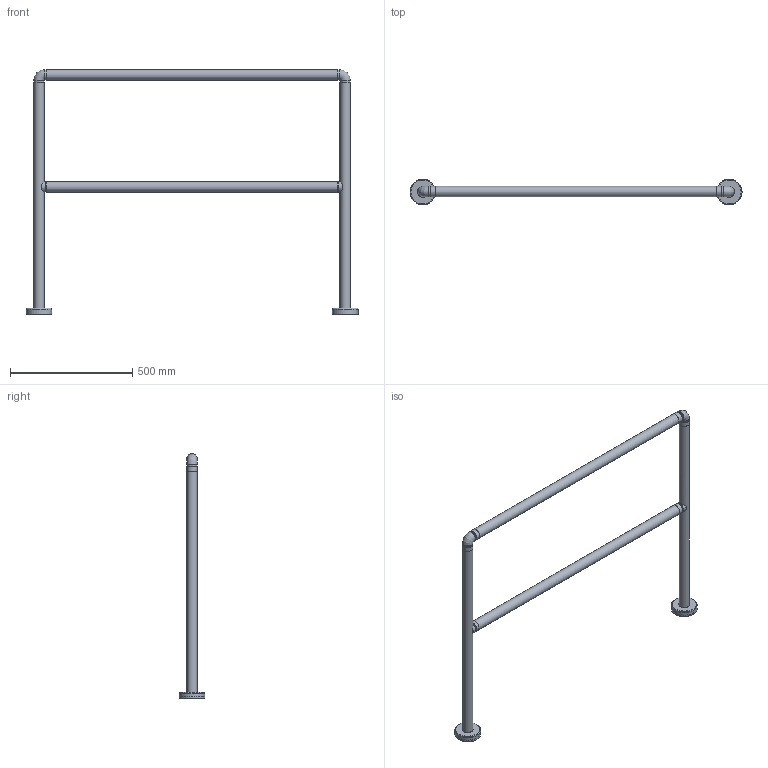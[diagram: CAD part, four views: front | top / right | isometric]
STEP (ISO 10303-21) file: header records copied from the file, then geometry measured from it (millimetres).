
FILE_DESCRIPTION(/* description */ ('Unknown'),/* implementation_level */ '2;1');
FILE_NAME(/* name */ '55870015_00',/* time_stamp */ '2023-03-13T11:53:00+01:00',/* author */ ('Unknown'),/* organization */ ('Unknown'),/* preprocessor_version */ 'ST-DEVELOPER v18.102',/* originating_system */ 'Solid Edge',/* authorisation */ 'Unknown');
FILE_SCHEMA (('AUTOMOTIVE_DESIGN {1 0 10303 214 3 1 1}'));
Length unit declared in the file: millimetre
Products named in the file (8): 55870015; 20500009; 20500009a; 20500009b; 20500009c; 20500009d; 20500009e; 20520153
Assembly tree (9 placements, depth 3):
  55870015
    20500009  x2
      20500009a
      20500009b
      20500009c
      20500009d
      20500009e
    20520153  x2
Bounding box: 1356.7 x 105 x 1000 mm (x, y, z)
Volume: 1331580.3 mm3; surface area: 1242773.5 mm2
Topology: 12 solids, 12 shells, 146 faces, 322 edges, 212 vertices
Faces by surface type: cylinder 82, plane 56, torus 8
Full cylindrical faces by diameter (mm): 6.647 x2, 9 x2, 27 x2, 35 x4, 38 x4, 38.4 x8, 42.4 x12, 44 x2, 101 x2, 105 x2
Entity records: 2393 total; most frequent: DIRECTION 376, CARTESIAN_POINT 346, ORIENTED_EDGE 262, AXIS2_PLACEMENT_3D 165, EDGE_CURVE 131, EDGE_LOOP 124, FACE_BOUND 124, VERTEX_POINT 101
